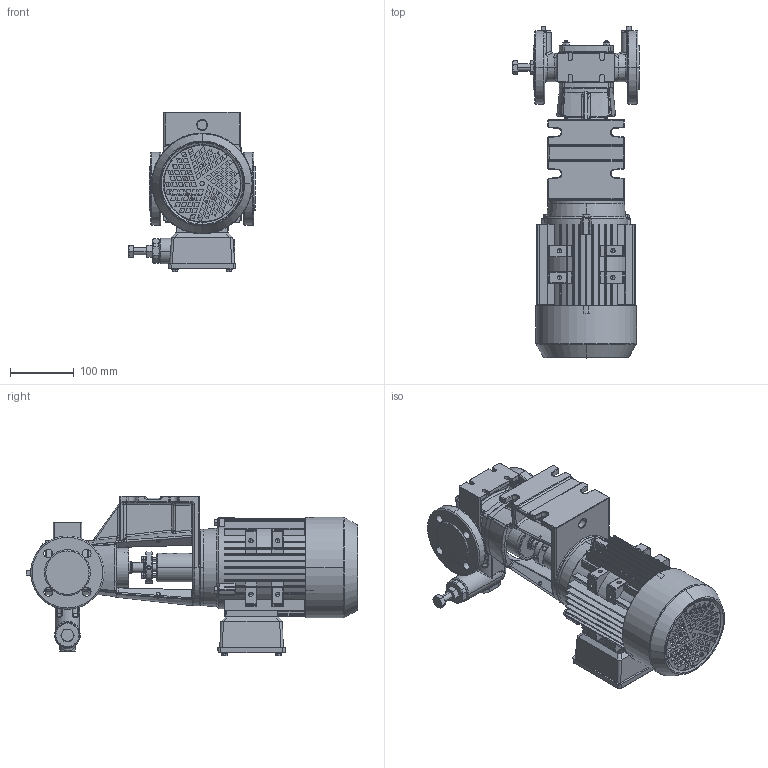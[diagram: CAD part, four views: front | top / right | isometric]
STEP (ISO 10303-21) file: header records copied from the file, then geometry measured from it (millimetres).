
FILE_DESCRIPTION((''),'2;1');
FILE_NAME('GP26EFM_ASM','2019-04-26T',('erya'),(''),'PRO/ENGINEER BY PARAMETRIC TECHNOLOGY CORPORATION, 2017170','PRO/ENGINEER BY PARAMETRIC TECHNOLOGY CORPORATION, 2017170','');
FILE_SCHEMA(('CONFIG_CONTROL_DESIGN'));
Products named in the file (25): 1026-001FA342; 1026-002AA342; 1026-003CE225; 1026-021BC017; 3213-020CA000; 704000; 1026-020DA050; 0050-120AA342; 0016-019BE200; 0025-012CA050; 700300; 700299; 846046; 3008-083GA080; 760288; 0051-024CA225; 2348578; 1022-046AA081; 1022-045AA030; 1022-036AA904; 1022-049AB020; 760279; 8302-BYPASS_ASM; 700298; GP26EFM_ASM
Assembly tree (37 placements, depth 3):
  GP26EFM_ASM
    1026-001FA342
    1026-002AA342
    1026-003CE225
    1026-021BC017
    3213-020CA000
    704000  x2
    1026-020DA050
    0050-120AA342
    0016-019BE200
    0025-012CA050
    700300  x2
    700299  x2
    846046
    3008-083GA080  x4
    760288  x4
    8302-BYPASS_ASM
      0051-024CA225
      2348578  x2
      1022-046AA081
      1022-045AA030
      1022-036AA904
      1022-049AB020
      760279
    700298  x4
Bounding box: 198 x 521 x 250.5 mm (x, y, z)
Volume: 5172207.9 mm3; surface area: 820074.8 mm2
Topology: 37 solids, 71 shells, 4052 faces, 10527 edges, 6591 vertices
Faces by surface type: plane 1940, cylinder 900, bspline 490, cone 453, torus 212, sphere 57
Entity records: 157689 total; most frequent: CARTESIAN_POINT 65314, ORIENTED_EDGE 19762, DIRECTION 17982, EDGE_CURVE 9985, VERTEX_POINT 6323, AXIS2_PLACEMENT_3D 6113, VECTOR 5756, LINE 5756
